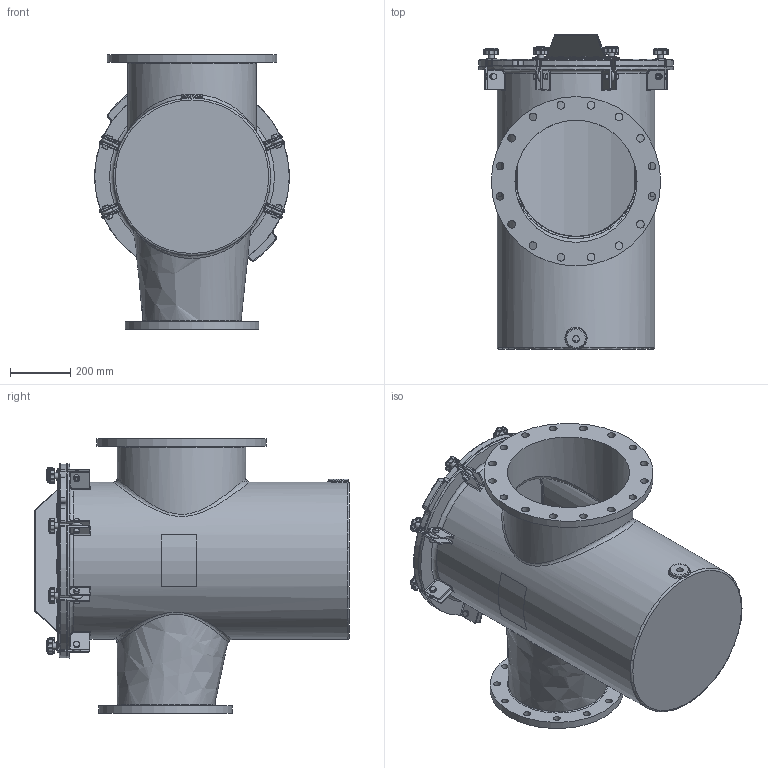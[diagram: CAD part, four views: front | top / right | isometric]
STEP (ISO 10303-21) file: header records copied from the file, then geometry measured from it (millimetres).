
FILE_DESCRIPTION(/* description */ ('400MM X 300MM FIBERGLASS STRAINER BODY'),/* implementation_level */ '2;1');
FILE_NAME(/* name */ 'E:\New folder (7)\Ready for delivery - Do not Disturb -Updated with metric Flange\Workspace\FG Reducing Strainer\Guardian FG Reducing H&L Strainer (Metric)\STRAINER H&L 400MM X 300MM.step',/* time_stamp */ '2016-10-19T04:16:39+06:00',/* author */ ('20076253'),/* organization */ (''),/* preprocessor_version */ 'ST-DEVELOPER v16.1',/* originating_system */ 'Autodesk Inventor 2016',/* authorisation */ '');
FILE_SCHEMA (('AUTOMOTIVE_DESIGN { 1 0 10303 214 3 1 1 }'));
Length unit declared in the file: inch
Products named in the file (24): NBFGBODY16X12MM; 150NBCVR22R2; 150NBGSK20R1; Perforated Basket 20in; Bride (Ring) 20in; Baffle 20in; Handle 20in; Bottom Strainer 20in; NBBSK16T316; BRACESTRCVR20_Welds; BRACE (BASE) FOR 20 BODY; BRACE (PROJ) FOR 20 BODY; Bumper; BRACESTRCVR20; Nut- 1_2  UNC; Bolt-1_2 x 1 1_2  UNC; EyeBolt; Washer; Knob M10; Securing Assembly For FG  with Brace; Securing Assembly For FG without Brace; Label for 20.625 inch (Right); Label for 20.625 inch (Left); STRAINER H&L 400MM X 300MM
Assembly tree (39 placements, depth 3):
  STRAINER H&L 400MM X 300MM
    NBFGBODY16X12MM
    150NBCVR22R2
    150NBGSK20R1
    NBBSK16T316
      Perforated Basket 20in
      Bride (Ring) 20in
      Baffle 20in
      Handle 20in
      Bottom Strainer 20in
    BRACESTRCVR20
      BRACESTRCVR20_Welds
      BRACE (BASE) FOR 20 BODY
      BRACE (PROJ) FOR 20 BODY
      Bumper  x6
    Securing Assembly For FG  with Brace  x2
      Nut- 1_2  UNC
      Bolt-1_2 x 1 1_2  UNC
      EyeBolt
      Washer
      Knob M10
    Securing Assembly For FG without Brace  x6
      Nut- 1_2  UNC
      Bolt-1_2 x 1 1_2  UNC
      EyeBolt
      Washer
      Knob M10
    Label for 20.625 inch (Right)
    Label for 20.625 inch (Left)
Bounding box: 647.7 x 1047.75 x 914.4 mm (x, y, z)
Volume: 34561213.8 mm3; surface area: 8511795.6 mm2
Topology: 68 solids, 68 shells, 1851 faces, 4245 edges, 2518 vertices
Faces by surface type: cylinder 686, plane 515, cone 184, torus 170, sphere 158, bspline 138
Full cylindrical faces by diameter (mm): 3.175 x11, 6.35 x2, 8.382 x8, 9.525 x16, 10.592 x8, 12.7 x8, 15.875 x16, 19 x16, 19.05 x8, 22.098 x12, 22.809 x1, 25.4 x16, 31.75 x8, 68.263 x1, 403.225 x2, 406.4 x2, 408.94 x1, 428.625 x1, 444.5 x1, 508 x2, 511.175 x1, 514.35 x1, 523.875 x1, 563.88 x1, 577.85 x1, 584.2 x1
Entity records: 36254 total; most frequent: CARTESIAN_POINT 12309, DIRECTION 4915, ORIENTED_EDGE 4546, EDGE_CURVE 2273, AXIS2_PLACEMENT_3D 2000, VERTEX_POINT 1434, EDGE_LOOP 1237, ADVANCED_FACE 1001
